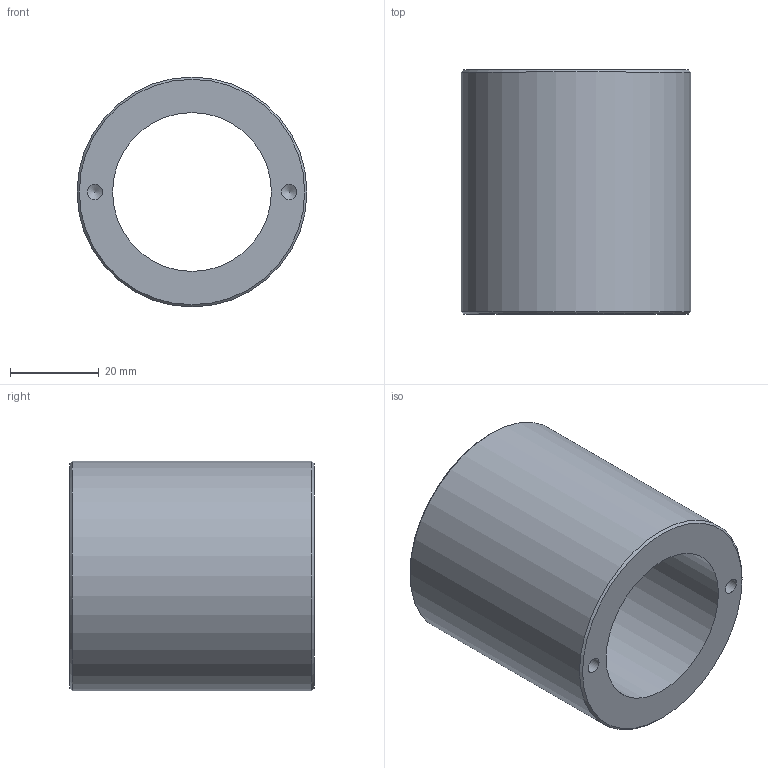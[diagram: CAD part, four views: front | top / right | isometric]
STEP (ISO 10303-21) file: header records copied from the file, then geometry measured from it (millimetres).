
FILE_DESCRIPTION(/* description */ (''),/* implementation_level */ '2;1');
FILE_NAME(/* name */ 'pp1.stp',/* time_stamp */ '2024-11-29T19:53:36+01:00',/* author */ ('R5800u'),/* organization */ (''),/* preprocessor_version */ 'ST-DEVELOPER v20',/* originating_system */ 'Autodesk Inventor 2025',/* authorisation */ '');
FILE_SCHEMA (('AUTOMOTIVE_DESIGN { 1 0 10303 214 3 1 1 }'));
Length unit declared in the file: millimetre
Products named in the file (1): pp1
Bounding box: 51.8 x 55 x 51.8 mm (x, y, z)
Volume: 60194.8 mm3; surface area: 17542.3 mm2
Topology: 1 solids, 1 shells, 11 faces, 24 edges, 15 vertices
Faces by surface type: cone 5, cylinder 4, plane 2
Full cylindrical faces by diameter (mm): 3.5 x2, 35.8 x1, 51.8 x1
Entity records: 344 total; most frequent: DIRECTION 59, CARTESIAN_POINT 49, ORIENTED_EDGE 44, AXIS2_PLACEMENT_3D 25, EDGE_CURVE 22, EDGE_LOOP 15, VERTEX_POINT 15, CIRCLE 13
